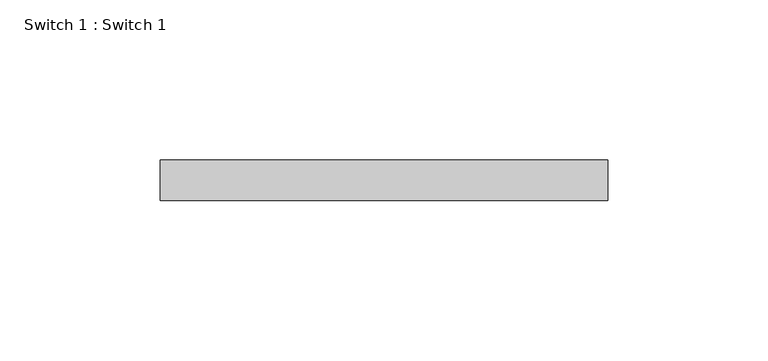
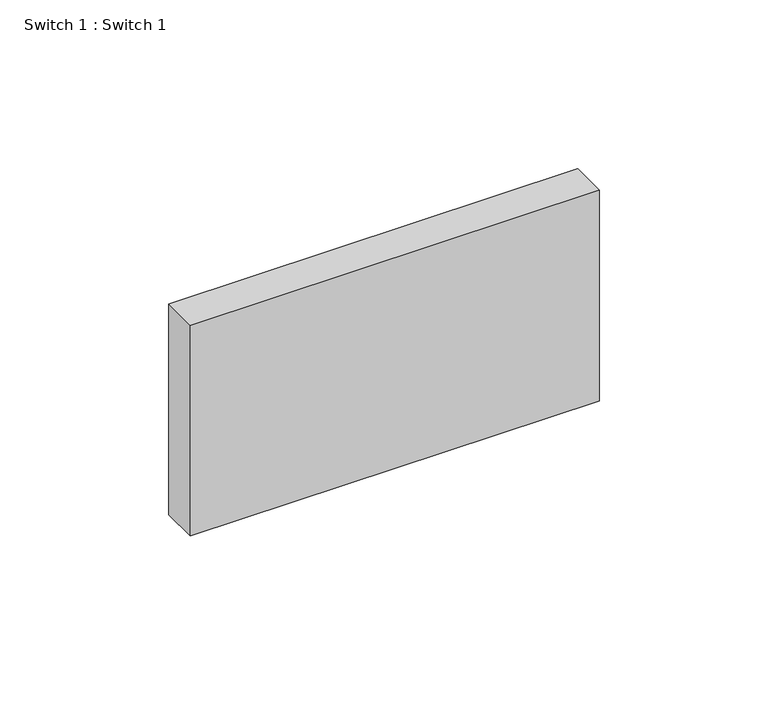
"""IFC4 building model written with IfcOpenShell, lengths in millimetres: proxy geometry, Switch 1 : Switch 1."""

from ifc_helpers import new_model, si_unit, origin, origin_with_axes, place, context, project, spatial, polyline, outline, extrude, source, transform, mapped, element, save


def switch_1_switch_1_a93bcbcb(model_context):
    return source(origin(), model_context, "Body", "SweptSolid", [
        extrude(outline(polyline([(99.813, 0.0), (-39.887, 0.0), (-39.887, 12.7), (99.813, 12.7), (99.813, 0.0)])), origin_with_axes(), (0.0, 0.0, 1.0), 76.2),
    ])


if __name__ == "__main__":
    model = new_model("IFC4")
    model_context = context("Model", 3, world=origin())
    ifc_project = project(units=[si_unit("LENGTHUNIT", "METRE", prefix="MILLI")], contexts=[model_context])
    site = spatial("IfcSite", under=ifc_project)
    building = spatial("IfcBuilding", under=site)
    placement = place(None, origin())
    switch_1_switch_1_shape = switch_1_switch_1_a93bcbcb(model_context)
    element("IfcBuildingElementProxy", 1, Name="Switch 1 : Switch 1", ObjectType="Switch 1 : Switch 1", at=placement, inside=building, context=model_context, shape_type="MappedRepresentation", body=[
        mapped(switch_1_switch_1_shape, transform((0.0, 0.0, 0.0), x_axis=(1.0, 0.0, 0.0), y_axis=(0.0, 1.0, 0.0), z_axis=(0.0, 0.0, 1.0))),
    ])
    save(model, "model.ifc")
